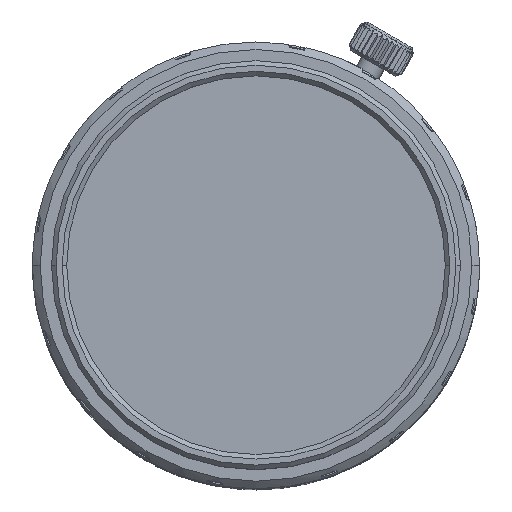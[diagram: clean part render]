
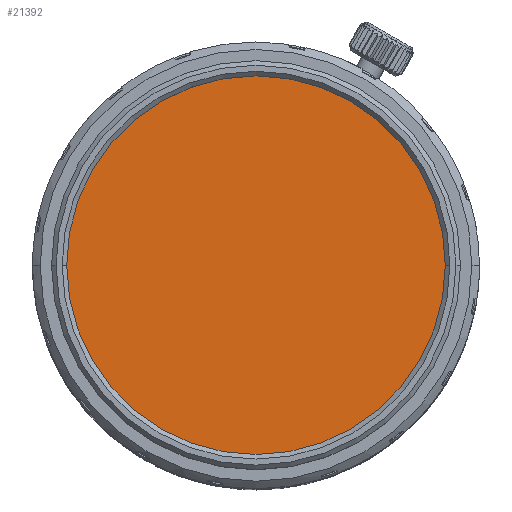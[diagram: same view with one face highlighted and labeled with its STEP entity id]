
A CAD part, top view. The second image highlights one B-rep face of the part: STEP entity #21392.
In plain terms, the highlighted planar face has unit normal (0, 0, 1).
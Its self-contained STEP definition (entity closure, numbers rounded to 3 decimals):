
#105 = EDGE_CURVE ( 'NONE', #3682, #9129, #18350, .T. ) ;
#3682 = VERTEX_POINT ( 'NONE', #25252 ) ;
#4120 = EDGE_CURVE ( 'NONE', #9129, #3682, #5338, .T. ) ;
#4898 = ORIENTED_EDGE ( 'NONE', *, *, #4120, .T. ) ;
#5338 = CIRCLE ( 'NONE', #21893, 12.5 ) ;
#7104 = FACE_OUTER_BOUND ( 'NONE', #24539, .T. ) ;
#7199 = CARTESIAN_POINT ( 'NONE',  ( 0., 0., 68.84 ) ) ;
#8706 = CARTESIAN_POINT ( 'NONE',  ( 0., 0., 68.84 ) ) ;
#9129 = VERTEX_POINT ( 'NONE', #19743 ) ;
#9156 = DIRECTION ( 'NONE',  ( 1., 0., 0. ) ) ;
#10264 = DIRECTION ( 'NONE',  ( 0., 0., 1. ) ) ;
#10715 = DIRECTION ( 'NONE',  ( 1., 0., 0. ) ) ;
#17244 = AXIS2_PLACEMENT_3D ( 'NONE', #8706, #22600, #10715 ) ;
#18350 = CIRCLE ( 'NONE', #17244, 12.5 ) ;
#18953 = PLANE ( 'NONE',  #19544 ) ;
#19544 = AXIS2_PLACEMENT_3D ( 'NONE', #7199, #21036, #9156 ) ;
#19743 = CARTESIAN_POINT ( 'NONE',  ( -12.5, 0., 68.84 ) ) ;
#20474 = ORIENTED_EDGE ( 'NONE', *, *, #105, .T. ) ;
#21036 = DIRECTION ( 'NONE',  ( 0., 0., 1. ) ) ;
#21392 = ADVANCED_FACE ( 'NONE', ( #7104 ), #18953, .T. ) ;
#21893 = AXIS2_PLACEMENT_3D ( 'NONE', #22124, #10264, #24128 ) ;
#22124 = CARTESIAN_POINT ( 'NONE',  ( 0., 0., 68.84 ) ) ;
#22600 = DIRECTION ( 'NONE',  ( 0., 0., 1. ) ) ;
#24128 = DIRECTION ( 'NONE',  ( 1., 0., 0. ) ) ;
#24539 = EDGE_LOOP ( 'NONE', ( #20474, #4898 ) ) ;
#25252 = CARTESIAN_POINT ( 'NONE',  ( 12.5, 0., 68.84 ) ) ;
